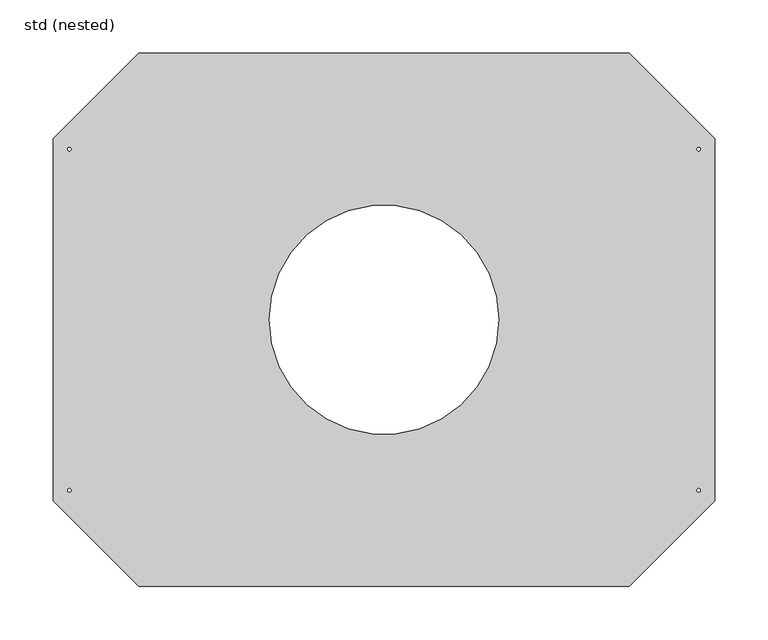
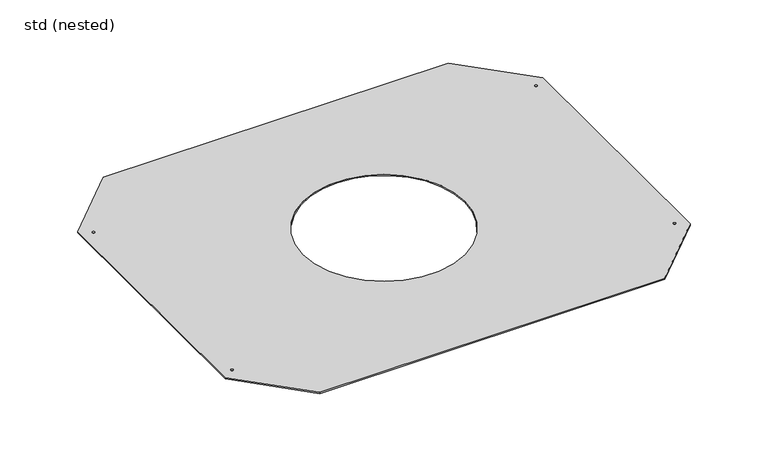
"""IFC4 building model written with IfcOpenShell, lengths in millimetres: sanitary terminal geometry, ZZZ_do not use_PF_ST_holder sheet for trapezoidal panel roof_ACO : std (nested)."""

import ifcopenshell
import ifcopenshell.guid

model = None  # the IFC model being written
_history = None  # IfcOwnerHistory: only IFC2X3 demands one
_inside = {}  # id of a spatial element -> (the spatial element, [elements in it])
_under = {}  # id of a project, library or spatial element -> (it, [spatial elements below it])
_declared = {}  # id of a project -> (the project, [libraries it declares])
_typed = {}  # id of a type object -> (the type object, [elements of that type])
_made_of = {}  # id of a material, layer set ... -> (it, [elements and type objects made of it])


def new_model(schema):
    """Start an empty IFC model of exactly this schema.

    Asked for "IFC4X3", IfcOpenShell would pick the latest addendum, in which some entities
    have other attributes; the version numbers below select the first issue.
    IFC2X3 requires an IfcOwnerHistory on every rooted entity: one is made here for all.
    """
    global model, _history
    if schema == "IFC4X3":
        model = ifcopenshell.file(schema_version=(4, 3, 0, 0))
    else:
        model = ifcopenshell.file(schema=schema)
    _inside.clear()
    _under.clear()
    _declared.clear()
    _typed.clear()
    _made_of.clear()
    _history = None
    if model.schema == "IFC2X3":
        org = make("IfcOrganization", Name="unknown")
        user = make(
            "IfcPersonAndOrganization",
            ThePerson=make("IfcPerson", FamilyName="unknown"),
            TheOrganization=org,
        )
        app = make(
            "IfcApplication",
            ApplicationDeveloper=org,
            Version="unknown",
            ApplicationFullName="unknown",
            ApplicationIdentifier="unknown",
        )
        _history = make(
            "IfcOwnerHistory",
            OwningUser=user,
            OwningApplication=app,
            ChangeAction="ADDED",
            CreationDate=0,
        )
    return model


def make(cls, **values):
    """One entity of the class cls with the attributes given. An attribute that is None is left unset."""
    return model.create_entity(
        cls, **{name: value for name, value in values.items() if value is not None}
    )


def rooted(cls, **values):
    """An entity with a GlobalId (a new one), such as an element, a storey or a relation."""
    return make(cls, GlobalId=ifcopenshell.guid.new(), OwnerHistory=_history, **values)


def si_unit(unit_type, name, prefix=None):
    """IfcSIUnit, for example si_unit("LENGTHUNIT", "METRE", prefix="MILLI")."""
    return make("IfcSIUnit", UnitType=unit_type, Prefix=prefix, Name=name)


def assignment(units):
    """IfcUnitAssignment: the units of a project."""
    return None if units is None else make("IfcUnitAssignment", Units=units)


def point(xyz):
    """IfcCartesianPoint."""
    return None if xyz is None else make("IfcCartesianPoint", Coordinates=xyz)


def direction(xyz):
    """IfcDirection."""
    return None if xyz is None else make("IfcDirection", DirectionRatios=xyz)


def frame(location, z_axis=None, x_axis=None):
    """IfcAxis2Placement3D, a coordinate frame: its origin and axes. An axis left out is left unset."""
    return make(
        "IfcAxis2Placement3D",
        Location=point(location),
        Axis=direction(z_axis),
        RefDirection=direction(x_axis),
    )


def frame_2d(location, x_axis=None):
    """IfcAxis2Placement2D, a coordinate frame in the plane: its origin and x axis."""
    return make(
        "IfcAxis2Placement2D", Location=point(location), RefDirection=direction(x_axis)
    )


def origin():
    """The frame at (0, 0, 0) with its axes left unset."""
    return frame((0.0, 0.0, 0.0))


def origin_with_axes():
    """The frame at (0, 0, 0) with the z axis (0, 0, 1) and the x axis (1, 0, 0) written out."""
    return frame((0.0, 0.0, 0.0), z_axis=(0.0, 0.0, 1.0), x_axis=(1.0, 0.0, 0.0))


def origin_2d():
    """The frame at (0, 0) in the plane with its x axis left unset."""
    return frame_2d((0.0, 0.0))


def place(relative_to, where):
    """IfcLocalPlacement: puts the frame where relative to a parent placement (None: the world)."""
    return make(
        "IfcLocalPlacement", PlacementRelTo=relative_to, RelativePlacement=where
    )


def context(
    kind, dimensions, precision=None, world=None, true_north=None, identifier=None
):
    """IfcGeometricRepresentationContext, for example the 3D "Model" context."""
    return make(
        "IfcGeometricRepresentationContext",
        ContextIdentifier=identifier,
        ContextType=kind,
        CoordinateSpaceDimension=dimensions,
        Precision=precision,
        WorldCoordinateSystem=world,
        TrueNorth=true_north,
    )


def project(units=None, contexts=None):
    """IfcProject with its units and contexts."""
    return rooted(
        "IfcProject",
        Name="project",
        RepresentationContexts=contexts,
        UnitsInContext=assignment(units),
    )


def spatial(cls, under=None, at=None, **own):
    """A site, building, storey or space (cls), placed at a placement, below another one or the project."""
    s = rooted(cls, ObjectPlacement=at, **own)
    if under is not None:
        _under.setdefault(under.id(), (under, []))[1].append(s)
    return s


def polyline(points):
    """IfcPolyline through the points."""
    return make("IfcPolyline", Points=[point(p) for p in points])


def circle_curve(where, radius):
    """IfcCircle in the frame where."""
    return make("IfcCircle", Position=where, Radius=radius)


def trimmed(basis, trim1, trim2, sense, master):
    """IfcTrimmedCurve: the piece of a basis curve between two trims."""
    return make(
        "IfcTrimmedCurve",
        BasisCurve=basis,
        Trim1=trim1,
        Trim2=trim2,
        SenseAgreement=sense,
        MasterRepresentation=master,
    )


def segment(curve, same_sense, transition):
    """IfcCompositeCurveSegment."""
    return make(
        "IfcCompositeCurveSegment",
        Transition=transition,
        SameSense=same_sense,
        ParentCurve=curve,
    )


def composite_curve(segments, self_intersect=None):
    """IfcCompositeCurve: segments joined end to end."""
    return make("IfcCompositeCurve", Segments=segments, SelfIntersect=self_intersect)


def outline(outer, holes=None, kind="AREA"):
    """IfcArbitraryClosedProfileDef: a profile drawn as a closed curve; with holes, ...WithVoids."""
    if holes is None:
        return make("IfcArbitraryClosedProfileDef", ProfileType=kind, OuterCurve=outer)
    return make(
        "IfcArbitraryProfileDefWithVoids",
        ProfileType=kind,
        OuterCurve=outer,
        InnerCurves=holes,
    )


def extrude(swept, where, along, depth):
    """IfcExtrudedAreaSolid: the profile swept, set in the frame where, extruded along a direction by depth."""
    return make(
        "IfcExtrudedAreaSolid",
        SweptArea=swept,
        Position=where,
        ExtrudedDirection=direction(along),
        Depth=depth,
    )


def shape(context_of_items, identifier, shape_type, items):
    """IfcShapeRepresentation: the items that make up one representation, for example the "Body"."""
    return make(
        "IfcShapeRepresentation",
        ContextOfItems=context_of_items,
        RepresentationIdentifier=identifier,
        RepresentationType=shape_type,
        Items=items,
    )


def source(mapping_origin, context_of_items, identifier, shape_type, items):
    """IfcRepresentationMap: a shape defined once, which mapped items show again and again."""
    return make(
        "IfcRepresentationMap",
        MappingOrigin=mapping_origin,
        MappedRepresentation=shape(context_of_items, identifier, shape_type, items),
    )


def transform(
    local_origin,
    x_axis=None,
    y_axis=None,
    z_axis=None,
    scale=None,
    scale2=None,
    scale3=None,
    uniform=True,
):
    """IfcCartesianTransformationOperator3D, or its non-uniform kind. x_axis, y_axis, z_axis: its Axis1, 2, 3."""
    if uniform:
        return make(
            "IfcCartesianTransformationOperator3D",
            Axis1=direction(x_axis),
            Axis2=direction(y_axis),
            LocalOrigin=point(local_origin),
            Scale=scale,
            Axis3=direction(z_axis),
        )
    return make(
        "IfcCartesianTransformationOperator3DnonUniform",
        Axis1=direction(x_axis),
        Axis2=direction(y_axis),
        LocalOrigin=point(local_origin),
        Scale=scale,
        Axis3=direction(z_axis),
        Scale2=scale2,
        Scale3=scale3,
    )


def mapped(mapping_source, mapping_target):
    """IfcMappedItem: shows the shape of a source again, moved by a transform."""
    return make(
        "IfcMappedItem", MappingSource=mapping_source, MappingTarget=mapping_target
    )


def made_of(thing, what):
    """Note that an element or type object is made of a material, layer set ...; save() writes the relation."""
    if what is not None:
        _made_of.setdefault(what.id(), (what, []))[1].append(thing)
    return thing


def element(
    cls,
    number,
    at=None,
    inside=None,
    cuts=None,
    type_object=None,
    material=None,
    context=None,
    identifier="Body",
    shape_type=None,
    held_by="IfcProductDefinitionShape",
    body=None,
    shapes=None,
    **own,
):
    """One element of the class cls, such as IfcWall. Its Tag is "e" and its number.

    at: its placement. inside: the storey or other place that contains it. cuts: it is an
    opening in that element (IfcRelVoidsElement). A single representation is given by context,
    identifier, shape_type and body (its items); several are given by shapes. held_by: the class
    of the entity that holds the representations. save() writes the other relations.
    """
    e = rooted(cls, Tag="e%d" % number, ObjectPlacement=at, **own)
    if body is not None:
        shapes = [shape(context, identifier, shape_type, body)]
    if shapes is not None:
        e.Representation = make(held_by, Representations=shapes)
    if inside is not None:
        _inside.setdefault(inside.id(), (inside, []))[1].append(e)
    if cuts is not None:
        rooted(
            "IfcRelVoidsElement", RelatingBuildingElement=cuts, RelatedOpeningElement=e
        )
    if type_object is not None:
        _typed.setdefault(type_object.id(), (type_object, []))[1].append(e)
    return made_of(e, material)


def aggregate(whole, parts):
    """IfcRelAggregates: a whole, such as a stair, and the parts it consists of."""
    return rooted("IfcRelAggregates", RelatingObject=whole, RelatedObjects=parts)


def save(model, path):
    """Write the relations noted so far, then the file.

    IfcRelAggregates (storeys below a building ...), IfcRelContainedInSpatialStructure (elements
    in a storey), IfcRelDefinesByType, IfcRelAssociatesMaterial and IfcRelDeclares: one each for
    every whole, place, type object, material and project.
    """
    for whole, parts in _under.values():
        aggregate(whole, parts)
    for where, things in _inside.values():
        rooted(
            "IfcRelContainedInSpatialStructure",
            RelatedElements=things,
            RelatingStructure=where,
        )
    for kind, things in _typed.values():
        rooted("IfcRelDefinesByType", RelatedObjects=things, RelatingType=kind)
    for what, things in _made_of.values():
        rooted("IfcRelAssociatesMaterial", RelatedObjects=things, RelatingMaterial=what)
    for by, libraries in _declared.values():
        rooted("IfcRelDeclares", RelatingContext=by, RelatedDefinitions=libraries)
    model.write(path)


def std_nested_b7057b15(model_context):
    return source(origin(), model_context, "Body", "SweptSolid", [
        extrude(outline(polyline([(230.0, 250.0), (310.0, 170.0), (310.0, -170.0), (230.0, -250.0), (-230.0, -250.0), (-310.0, -170.0), (-310.0, 170.0), (-230.0, 250.0), (230.0, 250.0)]), holes=[composite_curve([segment(trimmed(circle_curve(origin_2d(), 107.5), [point((-107.5, 0.0))], [point((107.5, 0.0))], True, "CARTESIAN"), True, "CONTINUOUS"), segment(trimmed(circle_curve(origin_2d(), 107.5), [point((107.5, 0.0))], [point((-107.5, 0.0))], True, "CARTESIAN"), True, "CONTINUOUS")], self_intersect=False), composite_curve([segment(trimmed(circle_curve(frame_2d((295.0, 160.0)), 1.6), [point((293.4, 160.0))], [point((296.6, 160.0))], True, "CARTESIAN"), True, "CONTINUOUS"), segment(trimmed(circle_curve(frame_2d((295.0, 160.0)), 1.6), [point((296.6, 160.0))], [point((293.4, 160.0))], True, "CARTESIAN"), True, "CONTINUOUS")], self_intersect=False), composite_curve([segment(trimmed(circle_curve(frame_2d((-295.0, 160.0)), 1.6), [point((-296.6, 160.0))], [point((-293.4, 160.0))], True, "CARTESIAN"), True, "CONTINUOUS"), segment(trimmed(circle_curve(frame_2d((-295.0, 160.0)), 1.6), [point((-293.4, 160.0))], [point((-296.6, 160.0))], True, "CARTESIAN"), True, "CONTINUOUS")], self_intersect=False), composite_curve([segment(trimmed(circle_curve(frame_2d((295.0, -160.0)), 1.6), [point((293.4, -160.0))], [point((296.6, -160.0))], True, "CARTESIAN"), True, "CONTINUOUS"), segment(trimmed(circle_curve(frame_2d((295.0, -160.0)), 1.6), [point((296.6, -160.0))], [point((293.4, -160.0))], True, "CARTESIAN"), True, "CONTINUOUS")], self_intersect=False), composite_curve([segment(trimmed(circle_curve(frame_2d((-295.0, -160.0)), 1.6), [point((-296.6, -160.0))], [point((-293.4, -160.0))], True, "CARTESIAN"), True, "CONTINUOUS"), segment(trimmed(circle_curve(frame_2d((-295.0, -160.0)), 1.6), [point((-293.4, -160.0))], [point((-296.6, -160.0))], True, "CARTESIAN"), True, "CONTINUOUS")], self_intersect=False)]), origin_with_axes(), (0.0, 0.0, 1.0), 1.5),
    ])


if __name__ == "__main__":
    model = new_model("IFC4")
    model_context = context("Model", 3, world=origin())
    ifc_project = project(units=[si_unit("LENGTHUNIT", "METRE", prefix="MILLI")], contexts=[model_context])
    site = spatial("IfcSite", under=ifc_project)
    building = spatial("IfcBuilding", under=site)
    placement = place(None, origin())
    std_nested_shape = std_nested_b7057b15(model_context)
    element("IfcSanitaryTerminal", 1, ObjectType="ZZZ_do not use_PF_ST_holder sheet for trapezoidal panel roof_ACO : std (nested)", at=placement, inside=building, context=model_context, shape_type="MappedRepresentation", body=[
        mapped(std_nested_shape, transform((0.0, 0.0, 0.0), x_axis=(1.0, 0.0, 0.0), y_axis=(0.0, 1.0, 0.0), z_axis=(0.0, 0.0, 1.0))),
    ])
    save(model, "model.ifc")
